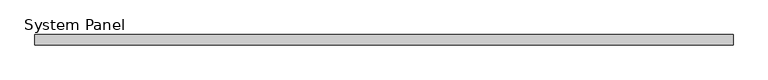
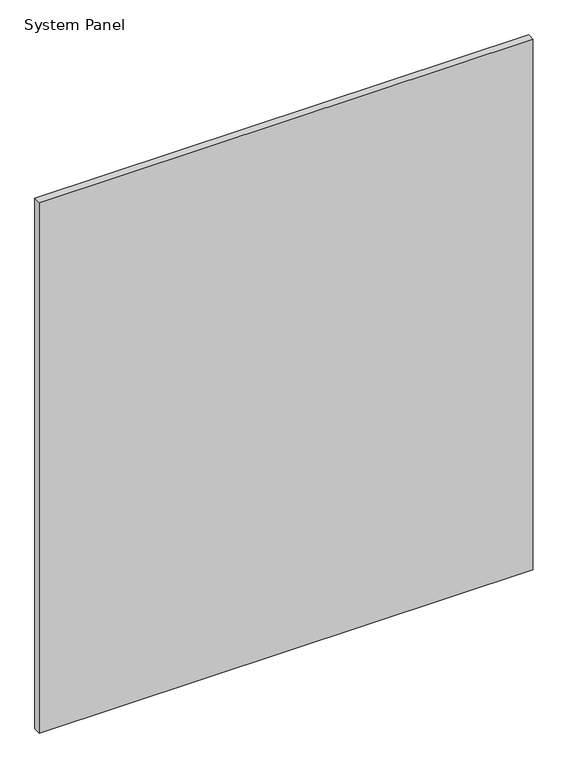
"""IFC4 building model written with IfcOpenShell, lengths in millimetres: plate geometry, System Panel : Panel_Glazed_Generic Showcase_30mm."""

import ifcopenshell
import ifcopenshell.guid

model = None  # the IFC model being written
_history = None  # IfcOwnerHistory: only IFC2X3 demands one
_inside = {}  # id of a spatial element -> (the spatial element, [elements in it])
_under = {}  # id of a project, library or spatial element -> (it, [spatial elements below it])
_declared = {}  # id of a project -> (the project, [libraries it declares])
_typed = {}  # id of a type object -> (the type object, [elements of that type])
_made_of = {}  # id of a material, layer set ... -> (it, [elements and type objects made of it])


def new_model(schema):
    """Start an empty IFC model of exactly this schema.

    Asked for "IFC4X3", IfcOpenShell would pick the latest addendum, in which some entities
    have other attributes; the version numbers below select the first issue.
    IFC2X3 requires an IfcOwnerHistory on every rooted entity: one is made here for all.
    """
    global model, _history
    if schema == "IFC4X3":
        model = ifcopenshell.file(schema_version=(4, 3, 0, 0))
    else:
        model = ifcopenshell.file(schema=schema)
    _inside.clear()
    _under.clear()
    _declared.clear()
    _typed.clear()
    _made_of.clear()
    _history = None
    if model.schema == "IFC2X3":
        org = make("IfcOrganization", Name="unknown")
        user = make(
            "IfcPersonAndOrganization",
            ThePerson=make("IfcPerson", FamilyName="unknown"),
            TheOrganization=org,
        )
        app = make(
            "IfcApplication",
            ApplicationDeveloper=org,
            Version="unknown",
            ApplicationFullName="unknown",
            ApplicationIdentifier="unknown",
        )
        _history = make(
            "IfcOwnerHistory",
            OwningUser=user,
            OwningApplication=app,
            ChangeAction="ADDED",
            CreationDate=0,
        )
    return model


def make(cls, **values):
    """One entity of the class cls with the attributes given. An attribute that is None is left unset."""
    return model.create_entity(
        cls, **{name: value for name, value in values.items() if value is not None}
    )


def rooted(cls, **values):
    """An entity with a GlobalId (a new one), such as an element, a storey or a relation."""
    return make(cls, GlobalId=ifcopenshell.guid.new(), OwnerHistory=_history, **values)


def si_unit(unit_type, name, prefix=None):
    """IfcSIUnit, for example si_unit("LENGTHUNIT", "METRE", prefix="MILLI")."""
    return make("IfcSIUnit", UnitType=unit_type, Prefix=prefix, Name=name)


def assignment(units):
    """IfcUnitAssignment: the units of a project."""
    return None if units is None else make("IfcUnitAssignment", Units=units)


def point(xyz):
    """IfcCartesianPoint."""
    return None if xyz is None else make("IfcCartesianPoint", Coordinates=xyz)


def direction(xyz):
    """IfcDirection."""
    return None if xyz is None else make("IfcDirection", DirectionRatios=xyz)


def frame(location, z_axis=None, x_axis=None):
    """IfcAxis2Placement3D, a coordinate frame: its origin and axes. An axis left out is left unset."""
    return make(
        "IfcAxis2Placement3D",
        Location=point(location),
        Axis=direction(z_axis),
        RefDirection=direction(x_axis),
    )


def origin():
    """The frame at (0, 0, 0) with its axes left unset."""
    return frame((0.0, 0.0, 0.0))


def origin_with_axes():
    """The frame at (0, 0, 0) with the z axis (0, 0, 1) and the x axis (1, 0, 0) written out."""
    return frame((0.0, 0.0, 0.0), z_axis=(0.0, 0.0, 1.0), x_axis=(1.0, 0.0, 0.0))


def place(relative_to, where):
    """IfcLocalPlacement: puts the frame where relative to a parent placement (None: the world)."""
    return make(
        "IfcLocalPlacement", PlacementRelTo=relative_to, RelativePlacement=where
    )


def context(
    kind, dimensions, precision=None, world=None, true_north=None, identifier=None
):
    """IfcGeometricRepresentationContext, for example the 3D "Model" context."""
    return make(
        "IfcGeometricRepresentationContext",
        ContextIdentifier=identifier,
        ContextType=kind,
        CoordinateSpaceDimension=dimensions,
        Precision=precision,
        WorldCoordinateSystem=world,
        TrueNorth=true_north,
    )


def project(units=None, contexts=None):
    """IfcProject with its units and contexts."""
    return rooted(
        "IfcProject",
        Name="project",
        RepresentationContexts=contexts,
        UnitsInContext=assignment(units),
    )


def spatial(cls, under=None, at=None, **own):
    """A site, building, storey or space (cls), placed at a placement, below another one or the project."""
    s = rooted(cls, ObjectPlacement=at, **own)
    if under is not None:
        _under.setdefault(under.id(), (under, []))[1].append(s)
    return s


def polyline(points):
    """IfcPolyline through the points."""
    return make("IfcPolyline", Points=[point(p) for p in points])


def outline(outer, holes=None, kind="AREA"):
    """IfcArbitraryClosedProfileDef: a profile drawn as a closed curve; with holes, ...WithVoids."""
    if holes is None:
        return make("IfcArbitraryClosedProfileDef", ProfileType=kind, OuterCurve=outer)
    return make(
        "IfcArbitraryProfileDefWithVoids",
        ProfileType=kind,
        OuterCurve=outer,
        InnerCurves=holes,
    )


def extrude(swept, where, along, depth):
    """IfcExtrudedAreaSolid: the profile swept, set in the frame where, extruded along a direction by depth."""
    return make(
        "IfcExtrudedAreaSolid",
        SweptArea=swept,
        Position=where,
        ExtrudedDirection=direction(along),
        Depth=depth,
    )


def shape(context_of_items, identifier, shape_type, items):
    """IfcShapeRepresentation: the items that make up one representation, for example the "Body"."""
    return make(
        "IfcShapeRepresentation",
        ContextOfItems=context_of_items,
        RepresentationIdentifier=identifier,
        RepresentationType=shape_type,
        Items=items,
    )


def source(mapping_origin, context_of_items, identifier, shape_type, items):
    """IfcRepresentationMap: a shape defined once, which mapped items show again and again."""
    return make(
        "IfcRepresentationMap",
        MappingOrigin=mapping_origin,
        MappedRepresentation=shape(context_of_items, identifier, shape_type, items),
    )


def transform(
    local_origin,
    x_axis=None,
    y_axis=None,
    z_axis=None,
    scale=None,
    scale2=None,
    scale3=None,
    uniform=True,
):
    """IfcCartesianTransformationOperator3D, or its non-uniform kind. x_axis, y_axis, z_axis: its Axis1, 2, 3."""
    if uniform:
        return make(
            "IfcCartesianTransformationOperator3D",
            Axis1=direction(x_axis),
            Axis2=direction(y_axis),
            LocalOrigin=point(local_origin),
            Scale=scale,
            Axis3=direction(z_axis),
        )
    return make(
        "IfcCartesianTransformationOperator3DnonUniform",
        Axis1=direction(x_axis),
        Axis2=direction(y_axis),
        LocalOrigin=point(local_origin),
        Scale=scale,
        Axis3=direction(z_axis),
        Scale2=scale2,
        Scale3=scale3,
    )


def mapped(mapping_source, mapping_target):
    """IfcMappedItem: shows the shape of a source again, moved by a transform."""
    return make(
        "IfcMappedItem", MappingSource=mapping_source, MappingTarget=mapping_target
    )


def made_of(thing, what):
    """Note that an element or type object is made of a material, layer set ...; save() writes the relation."""
    if what is not None:
        _made_of.setdefault(what.id(), (what, []))[1].append(thing)
    return thing


def element(
    cls,
    number,
    at=None,
    inside=None,
    cuts=None,
    type_object=None,
    material=None,
    context=None,
    identifier="Body",
    shape_type=None,
    held_by="IfcProductDefinitionShape",
    body=None,
    shapes=None,
    **own,
):
    """One element of the class cls, such as IfcWall. Its Tag is "e" and its number.

    at: its placement. inside: the storey or other place that contains it. cuts: it is an
    opening in that element (IfcRelVoidsElement). A single representation is given by context,
    identifier, shape_type and body (its items); several are given by shapes. held_by: the class
    of the entity that holds the representations. save() writes the other relations.
    """
    e = rooted(cls, Tag="e%d" % number, ObjectPlacement=at, **own)
    if body is not None:
        shapes = [shape(context, identifier, shape_type, body)]
    if shapes is not None:
        e.Representation = make(held_by, Representations=shapes)
    if inside is not None:
        _inside.setdefault(inside.id(), (inside, []))[1].append(e)
    if cuts is not None:
        rooted(
            "IfcRelVoidsElement", RelatingBuildingElement=cuts, RelatedOpeningElement=e
        )
    if type_object is not None:
        _typed.setdefault(type_object.id(), (type_object, []))[1].append(e)
    return made_of(e, material)


def aggregate(whole, parts):
    """IfcRelAggregates: a whole, such as a stair, and the parts it consists of."""
    return rooted("IfcRelAggregates", RelatingObject=whole, RelatedObjects=parts)


def save(model, path):
    """Write the relations noted so far, then the file.

    IfcRelAggregates (storeys below a building ...), IfcRelContainedInSpatialStructure (elements
    in a storey), IfcRelDefinesByType, IfcRelAssociatesMaterial and IfcRelDeclares: one each for
    every whole, place, type object, material and project.
    """
    for whole, parts in _under.values():
        aggregate(whole, parts)
    for where, things in _inside.values():
        rooted(
            "IfcRelContainedInSpatialStructure",
            RelatedElements=things,
            RelatingStructure=where,
        )
    for kind, things in _typed.values():
        rooted("IfcRelDefinesByType", RelatedObjects=things, RelatingType=kind)
    for what, things in _made_of.values():
        rooted("IfcRelAssociatesMaterial", RelatedObjects=things, RelatingMaterial=what)
    for by, libraries in _declared.values():
        rooted("IfcRelDeclares", RelatingContext=by, RelatedDefinitions=libraries)
    model.write(path)


def system_panel_247cbe18(model_context):
    return source(origin(), model_context, "Body", "SweptSolid", [
        extrude(outline(polyline([(1012.5, -30.0), (-1012.5, -30.0), (-1012.5, 0.0), (1012.5, 0.0), (1012.5, -30.0)])), origin_with_axes(), (0.0, 0.0, 1.0), 2300.0),
    ])


if __name__ == "__main__":
    model = new_model("IFC4")
    model_context = context("Model", 3, world=origin())
    ifc_project = project(units=[si_unit("LENGTHUNIT", "METRE", prefix="MILLI")], contexts=[model_context])
    site = spatial("IfcSite", under=ifc_project)
    building = spatial("IfcBuilding", under=site)
    placement = place(None, origin())
    system_panel_shape = system_panel_247cbe18(model_context)
    element("IfcPlate", 1, ObjectType="System Panel : Panel_Glazed_Generic Showcase_30mm", at=placement, inside=building, context=model_context, shape_type="MappedRepresentation", body=[
        mapped(system_panel_shape, transform((0.0, 0.0, 0.0), x_axis=(1.0, 0.0, 0.0), y_axis=(0.0, 1.0, 0.0), z_axis=(0.0, 0.0, 1.0))),
    ])
    save(model, "model.ifc")
